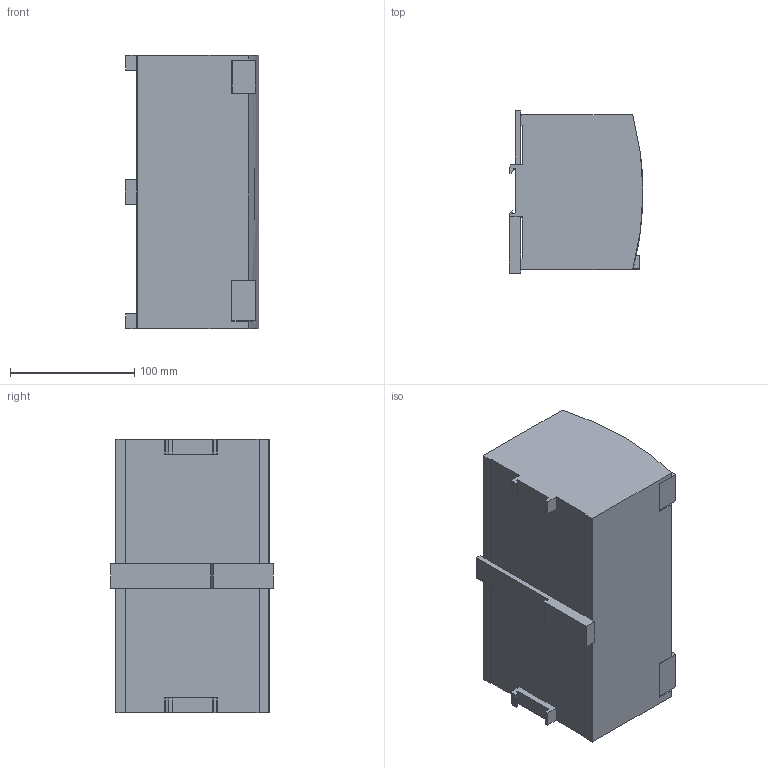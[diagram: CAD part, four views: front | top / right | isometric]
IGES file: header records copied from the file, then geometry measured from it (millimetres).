
Start section: SolidWorks IGES FILE using analytic representation for surfaces
Global section: file name: C:\Vertrieb\SL20_112\SL20_112.IGS; native system: SolidWorks 2004 by SolidWorks Corporation; preprocessor: Version 5.3; author: heinrij; date: 031016.104600; units: millimetre
Bounding box: 107.63 x 130.5 x 220 mm (x, y, z)
Surface area: 131669.4 mm2 (no closed solid volume)
Topology: 0 solids, 0 shells, 674 faces, 6031 edges, 6031 vertices
Faces by surface type: bspline 633, revolution 41
